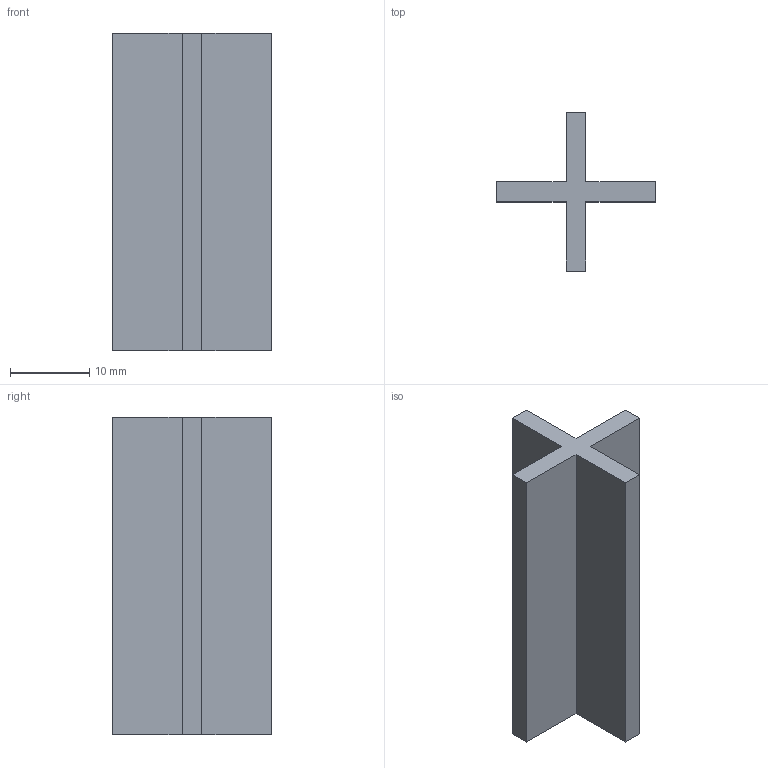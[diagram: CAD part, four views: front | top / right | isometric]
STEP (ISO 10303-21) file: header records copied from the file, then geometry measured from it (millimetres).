
FILE_DESCRIPTION(/* description */ ('STEP AP242 Edition 2','CAx-IF Rec.Pracs.---Representation and Presentation of Product Manufacturing Information (PMI)---4.0---2014-10-13','CAx-IF Rec.Pracs.---3D Tessellated Geometry---0.4---2014-09-14','2;1','CAx-IF Rec.Pracs.---User Defined Attributes---1.5---2016-08-15'),/* implementation_level */ '2;1');
FILE_NAME(/* name */ 'Tracker Assembly - Divider',/* time_stamp */ '2026-10-25T15:06:34Z',/* author */ (''),/* organization */ (''),/* preprocessor_version */ 'ST-DEVELOPER v20',/* originating_system */ 'ONSHAPE BY PTC INC, 1.222',/* authorisation */ ' ');
FILE_SCHEMA (('AP242_MANAGED_MODEL_BASED_3D_ENGINEERING_MIM_LF { 1 0 10303 442 3 1 4 }'));
Length unit declared in the file: metre
Products named in the file (1): Divider
Bounding box: 20 x 20 x 40 mm (x, y, z)
Volume: 3750 mm3; surface area: 3387.5 mm2
Topology: 1 solids, 1 shells, 14 faces, 36 edges, 24 vertices
Faces by surface type: plane 14
Entity records: 442 total; most frequent: CARTESIAN_POINT 75, ORIENTED_EDGE 72, DIRECTION 66, EDGE_CURVE 36, LINE 36, VECTOR 36, VERTEX_POINT 24, AXIS2_PLACEMENT_3D 15
